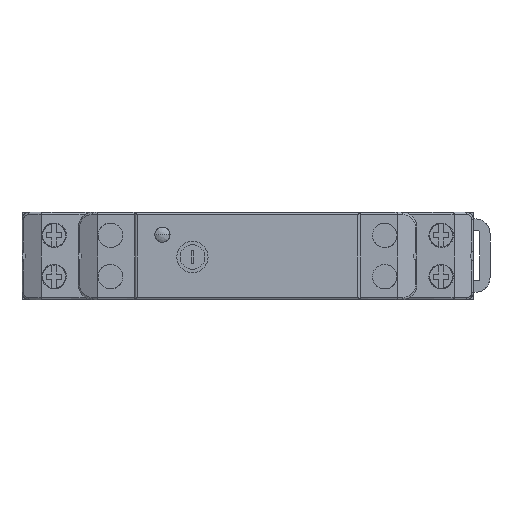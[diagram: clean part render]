
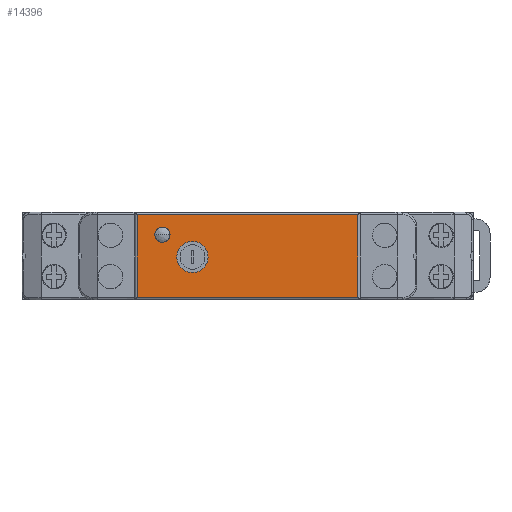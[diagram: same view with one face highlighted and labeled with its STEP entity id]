
A CAD part, left-side view. The second image highlights one B-rep face of the part: STEP entity #14396.
In plain terms, the highlighted planar face has unit normal (-1, 0, 0).
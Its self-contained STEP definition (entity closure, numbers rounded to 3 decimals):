
#77 = PLANE ( 'NONE',  #7475 ) ;
#210 = ORIENTED_EDGE ( 'NONE', *, *, #4489, .F. ) ;
#728 = CARTESIAN_POINT ( 'NONE',  ( -14.819, 29.253, 12.26 ) ) ;
#818 = VERTEX_POINT ( 'NONE', #5549 ) ;
#1135 = CARTESIAN_POINT ( 'NONE',  ( -14.819, 28.858, 10.273 ) ) ;
#1142 = CARTESIAN_POINT ( 'NONE',  ( -14.819, -71.086, -1.459 ) ) ;
#1153 = ORIENTED_EDGE ( 'NONE', *, *, #1455, .F. ) ;
#1308 = DIRECTION ( 'NONE',  ( 0., 1., 0. ) ) ;
#1455 = EDGE_CURVE ( 'NONE', #12965, #7058, #11952, .T. ) ;
#1890 = CARTESIAN_POINT ( 'NONE',  ( -14.819, 28.665, 11.241 ) ) ;
#1939 = CARTESIAN_POINT ( 'NONE',  ( -14.819, 29.791, 12.526 ) ) ;
#2016 = VERTEX_POINT ( 'NONE', #7926 ) ;
#2287 = CARTESIAN_POINT ( 'NONE',  ( -14.819, 31.522, 10.273 ) ) ;
#2334 = CARTESIAN_POINT ( 'NONE',  ( -14.819, 28.665, 10.842 ) ) ;
#2555 = VECTOR ( 'NONE', #7511, 1000. ) ;
#2778 = ORIENTED_EDGE ( 'NONE', *, *, #3696, .F. ) ;
#3141 = CARTESIAN_POINT ( 'NONE',  ( -14.819, 30.389, 12.566 ) ) ;
#3489 = CARTESIAN_POINT ( 'NONE',  ( -14.819, 31.127, 9.822 ) ) ;
#3696 = EDGE_CURVE ( 'NONE', #2016, #14721, #13646, .T. ) ;
#4018 = CARTESIAN_POINT ( 'NONE',  ( -14.819, 32.69, 15.041 ) ) ;
#4361 = CARTESIAN_POINT ( 'NONE',  ( -14.819, 30.957, 12.373 ) ) ;
#4420 = AXIS2_PLACEMENT_3D ( 'NONE', #4757, #13134, #5939 ) ;
#4489 = EDGE_CURVE ( 'NONE', #818, #9640, #6439, .T. ) ;
#4708 = CARTESIAN_POINT ( 'NONE',  ( -14.819, 30.589, 9.556 ) ) ;
#4730 = FACE_OUTER_BOUND ( 'NONE', #5320, .T. ) ;
#4757 = CARTESIAN_POINT ( 'NONE',  ( -14.819, 24.19, 6.591 ) ) ;
#4772 = ORIENTED_EDGE ( 'NONE', *, *, #14702, .F. ) ;
#5047 = CARTESIAN_POINT ( 'NONE',  ( -14.819, 24.19, 6.591 ) ) ;
#5320 = EDGE_LOOP ( 'NONE', ( #5548, #1153, #8729, #210 ) ) ;
#5548 = ORIENTED_EDGE ( 'NONE', *, *, #9578, .F. ) ;
#5549 = CARTESIAN_POINT ( 'NONE',  ( -14.819, 35.19, 15.041 ) ) ;
#5559 = CARTESIAN_POINT ( 'NONE',  ( -14.819, 31.409, 11.978 ) ) ;
#5657 = CARTESIAN_POINT ( 'NONE',  ( -14.819, 27.305, 6.591 ) ) ;
#5896 = CARTESIAN_POINT ( 'NONE',  ( -14.819, 29.99, 9.517 ) ) ;
#5939 = DIRECTION ( 'NONE',  ( 0., -1., 0. ) ) ;
#5946 = VECTOR ( 'NONE', #13092, 1000. ) ;
#6145 = CIRCLE ( 'NONE', #12542, 3.115 ) ;
#6220 = DIRECTION ( 'NONE',  ( 0., -1., 0. ) ) ;
#6275 = CARTESIAN_POINT ( 'NONE',  ( -14.819, -8.81, -1.459 ) ) ;
#6305 = CARTESIAN_POINT ( 'NONE',  ( -14.819, 35.19, 14.041 ) ) ;
#6356 = CARTESIAN_POINT ( 'NONE',  ( -14.819, -8.81, 14.041 ) ) ;
#6392 = B_SPLINE_CURVE_WITH_KNOTS ( 'NONE', 3,
 ( #15445, #7042, #9468, #2287, #10666, #3489, #11878, #4708, #13083, #5896, #14310, #7101, #15491, #8299, #1135, #9519, #2334, #10724 ),
 .UNSPECIFIED., .F., .F.,
 ( 4, 2, 2, 2, 2, 2, 2, 2, 4 ),
 ( 0., 0.125, 0.25, 0.375, 0.5, 0.625, 0.75, 0.875, 1. ),
 .UNSPECIFIED. ) ;
#6439 = LINE ( 'NONE', #4018, #12819 ) ;
#6599 = EDGE_LOOP ( 'NONE', ( #4772, #2778 ) ) ;
#6702 = CARTESIAN_POINT ( 'NONE',  ( -14.819, 28.705, 11.44 ) ) ;
#6754 = CARTESIAN_POINT ( 'NONE',  ( -14.819, 31.674, 11.44 ) ) ;
#7042 = CARTESIAN_POINT ( 'NONE',  ( -14.819, 31.714, 10.842 ) ) ;
#7058 = VERTEX_POINT ( 'NONE', #15520 ) ;
#7101 = CARTESIAN_POINT ( 'NONE',  ( -14.819, 29.422, 9.709 ) ) ;
#7475 = AXIS2_PLACEMENT_3D ( 'NONE', #12043, #8468, #1308 ) ;
#7511 = DIRECTION ( 'NONE',  ( 0., 0., 1. ) ) ;
#7569 = DIRECTION ( 'NONE',  ( 0., 0., -1. ) ) ;
#7570 = VERTEX_POINT ( 'NONE', #10717 ) ;
#7899 = CARTESIAN_POINT ( 'NONE',  ( -14.819, 28.971, 11.978 ) ) ;
#7926 = CARTESIAN_POINT ( 'NONE',  ( -14.819, 28.665, 11.041 ) ) ;
#7953 = CARTESIAN_POINT ( 'NONE',  ( -14.819, 31.714, 11.041 ) ) ;
#8299 = CARTESIAN_POINT ( 'NONE',  ( -14.819, 28.971, 10.104 ) ) ;
#8350 = CARTESIAN_POINT ( 'NONE',  ( -14.819, 31.714, 11.041 ) ) ;
#8461 = EDGE_CURVE ( 'NONE', #7570, #15546, #6145, .T. ) ;
#8468 = DIRECTION ( 'NONE',  ( 1., 0., 0. ) ) ;
#8729 = ORIENTED_EDGE ( 'NONE', *, *, #10981, .F. ) ;
#9115 = CARTESIAN_POINT ( 'NONE',  ( -14.819, 29.422, 12.373 ) ) ;
#9361 = EDGE_CURVE ( 'NONE', #15546, #7570, #11198, .T. ) ;
#9468 = CARTESIAN_POINT ( 'NONE',  ( -14.819, 31.674, 10.642 ) ) ;
#9519 = CARTESIAN_POINT ( 'NONE',  ( -14.819, 28.705, 10.642 ) ) ;
#9578 = EDGE_CURVE ( 'NONE', #7058, #818, #12134, .T. ) ;
#9593 = FACE_BOUND ( 'NONE', #13011, .T. ) ;
#9640 = VERTEX_POINT ( 'NONE', #13707 ) ;
#9691 = VECTOR ( 'NONE', #7569, 1000. ) ;
#10324 = CARTESIAN_POINT ( 'NONE',  ( -14.819, 29.99, 12.566 ) ) ;
#10666 = CARTESIAN_POINT ( 'NONE',  ( -14.819, 31.409, 10.104 ) ) ;
#10717 = CARTESIAN_POINT ( 'NONE',  ( -14.819, 21.075, 6.591 ) ) ;
#10724 = CARTESIAN_POINT ( 'NONE',  ( -14.819, 28.665, 11.041 ) ) ;
#10981 = EDGE_CURVE ( 'NONE', #9640, #12965, #14938, .T. ) ;
#11198 = CIRCLE ( 'NONE', #4420, 3.115 ) ;
#11540 = CARTESIAN_POINT ( 'NONE',  ( -14.819, 30.589, 12.526 ) ) ;
#11878 = CARTESIAN_POINT ( 'NONE',  ( -14.819, 30.957, 9.709 ) ) ;
#11952 = LINE ( 'NONE', #1142, #5946 ) ;
#12043 = CARTESIAN_POINT ( 'NONE',  ( -14.819, 32.69, 14.041 ) ) ;
#12134 = LINE ( 'NONE', #6305, #2555 ) ;
#12406 = DIRECTION ( 'NONE',  ( 0., -1., 0. ) ) ;
#12542 = AXIS2_PLACEMENT_3D ( 'NONE', #5047, #13424, #6220 ) ;
#12692 = CARTESIAN_POINT ( 'NONE',  ( -14.819, 28.665, 11.041 ) ) ;
#12741 = CARTESIAN_POINT ( 'NONE',  ( -14.819, 31.127, 12.26 ) ) ;
#12819 = VECTOR ( 'NONE', #12406, 1000. ) ;
#12965 = VERTEX_POINT ( 'NONE', #6275 ) ;
#13011 = EDGE_LOOP ( 'NONE', ( #13860, #15075 ) ) ;
#13083 = CARTESIAN_POINT ( 'NONE',  ( -14.819, 30.389, 9.517 ) ) ;
#13092 = DIRECTION ( 'NONE',  ( 0., 1., 0. ) ) ;
#13134 = DIRECTION ( 'NONE',  ( -1., 0., 0. ) ) ;
#13163 = FACE_BOUND ( 'NONE', #6599, .T. ) ;
#13424 = DIRECTION ( 'NONE',  ( -1., 0., 0. ) ) ;
#13646 = B_SPLINE_CURVE_WITH_KNOTS ( 'NONE', 3,
 ( #12692, #1890, #6702, #15098, #7899, #728, #9115, #1939, #10324, #3141, #11540, #4361, #12741, #5559, #13947, #6754, #15149, #7953 ),
 .UNSPECIFIED., .F., .F.,
 ( 4, 2, 2, 2, 2, 2, 2, 2, 4 ),
 ( 0., 0.125, 0.25, 0.375, 0.5, 0.625, 0.75, 0.875, 1. ),
 .UNSPECIFIED. ) ;
#13707 = CARTESIAN_POINT ( 'NONE',  ( -14.819, -8.81, 15.041 ) ) ;
#13860 = ORIENTED_EDGE ( 'NONE', *, *, #8461, .F. ) ;
#13947 = CARTESIAN_POINT ( 'NONE',  ( -14.819, 31.522, 11.809 ) ) ;
#14310 = CARTESIAN_POINT ( 'NONE',  ( -14.819, 29.791, 9.556 ) ) ;
#14396 = ADVANCED_FACE ( 'NONE', ( #9593, #4730, #13163 ), #77, .F. ) ;
#14702 = EDGE_CURVE ( 'NONE', #14721, #2016, #6392, .T. ) ;
#14721 = VERTEX_POINT ( 'NONE', #8350 ) ;
#14938 = LINE ( 'NONE', #6356, #9691 ) ;
#15075 = ORIENTED_EDGE ( 'NONE', *, *, #9361, .F. ) ;
#15098 = CARTESIAN_POINT ( 'NONE',  ( -14.819, 28.858, 11.809 ) ) ;
#15149 = CARTESIAN_POINT ( 'NONE',  ( -14.819, 31.714, 11.241 ) ) ;
#15445 = CARTESIAN_POINT ( 'NONE',  ( -14.819, 31.714, 11.041 ) ) ;
#15491 = CARTESIAN_POINT ( 'NONE',  ( -14.819, 29.253, 9.822 ) ) ;
#15520 = CARTESIAN_POINT ( 'NONE',  ( -14.819, 35.19, -1.459 ) ) ;
#15546 = VERTEX_POINT ( 'NONE', #5657 ) ;
